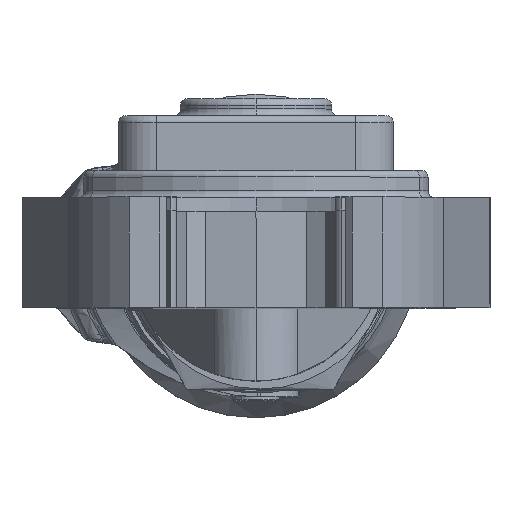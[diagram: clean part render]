
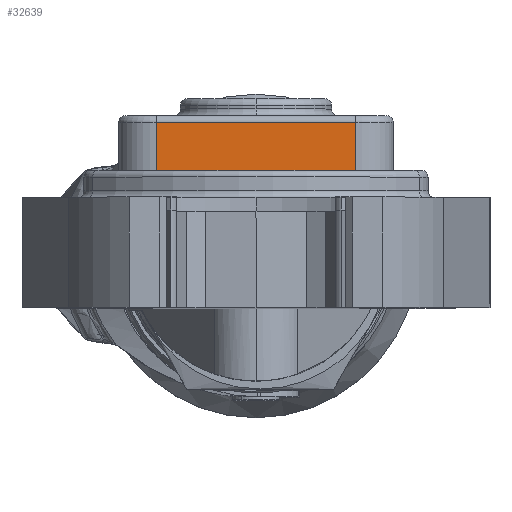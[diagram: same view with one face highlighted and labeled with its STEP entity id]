
A CAD part, top view. The second image highlights one B-rep face of the part: STEP entity #32639.
In plain terms, the highlighted planar face has unit normal (0, 0, 1).
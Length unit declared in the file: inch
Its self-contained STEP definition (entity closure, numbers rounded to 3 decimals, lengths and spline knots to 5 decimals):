
#292 = VERTEX_POINT ( 'NONE', #10707 ) ;
#1421 = EDGE_CURVE ( 'NONE', #67693, #292, #54548, .T. ) ;
#3221 = DIRECTION ( 'NONE',  ( 0., -1., 0. ) ) ;
#4626 = CARTESIAN_POINT ( 'NONE',  ( 0.57087, 0.7874, 2.8702 ) ) ;
#10707 = CARTESIAN_POINT ( 'NONE',  ( -0.57087, 0.47244, 2.8702 ) ) ;
#12620 = EDGE_CURVE ( 'NONE', #69851, #64103, #34603, .T. ) ;
#13843 = DIRECTION ( 'NONE',  ( 0., 0., 1. ) ) ;
#16889 = EDGE_CURVE ( 'NONE', #69851, #67693, #54225, .T. ) ;
#16992 = EDGE_CURVE ( 'NONE', #64103, #292, #50570, .T. ) ;
#28657 = AXIS2_PLACEMENT_3D ( 'NONE', #48061, #13843, #53677 ) ;
#32639 = ADVANCED_FACE ( 'NONE', ( #52238 ), #53433, .T. ) ;
#33180 = CARTESIAN_POINT ( 'NONE',  ( -0.57087, 0.74803, 2.8702 ) ) ;
#34603 = LINE ( 'NONE', #50009, #51820 ) ;
#36117 = CARTESIAN_POINT ( 'NONE',  ( 0.57087, 0.74803, 2.8702 ) ) ;
#43358 = EDGE_LOOP ( 'NONE', ( #52990, #68714, #44794, #56169 ) ) ;
#44794 = ORIENTED_EDGE ( 'NONE', *, *, #16992, .T. ) ;
#45776 = VECTOR ( 'NONE', #56846, 39.37008 ) ;
#48061 = CARTESIAN_POINT ( 'NONE',  ( 0.57087, 0.7874, 2.8702 ) ) ;
#49531 = DIRECTION ( 'NONE',  ( -1., 0., 0. ) ) ;
#50009 = CARTESIAN_POINT ( 'NONE',  ( -0.57087, 0.74803, 2.8702 ) ) ;
#50355 = VECTOR ( 'NONE', #69468, 39.37008 ) ;
#50570 = LINE ( 'NONE', #69633, #50355 ) ;
#51820 = VECTOR ( 'NONE', #49531, 39.37008 ) ;
#52023 = CARTESIAN_POINT ( 'NONE',  ( -0.74803, 0.47244, 2.8702 ) ) ;
#52238 = FACE_OUTER_BOUND ( 'NONE', #43358, .T. ) ;
#52990 = ORIENTED_EDGE ( 'NONE', *, *, #16889, .F. ) ;
#53433 = PLANE ( 'NONE',  #28657 ) ;
#53677 = DIRECTION ( 'NONE',  ( 0., -1., 0. ) ) ;
#54225 = LINE ( 'NONE', #4626, #54426 ) ;
#54426 = VECTOR ( 'NONE', #3221, 39.37008 ) ;
#54548 = LINE ( 'NONE', #52023, #45776 ) ;
#56169 = ORIENTED_EDGE ( 'NONE', *, *, #1421, .F. ) ;
#56846 = DIRECTION ( 'NONE',  ( -1., 0., 0. ) ) ;
#64103 = VERTEX_POINT ( 'NONE', #33180 ) ;
#67693 = VERTEX_POINT ( 'NONE', #71732 ) ;
#68714 = ORIENTED_EDGE ( 'NONE', *, *, #12620, .T. ) ;
#69468 = DIRECTION ( 'NONE',  ( 0., -1., 0. ) ) ;
#69633 = CARTESIAN_POINT ( 'NONE',  ( -0.57087, 0.7874, 2.8702 ) ) ;
#69851 = VERTEX_POINT ( 'NONE', #36117 ) ;
#71732 = CARTESIAN_POINT ( 'NONE',  ( 0.57087, 0.47244, 2.8702 ) ) ;
